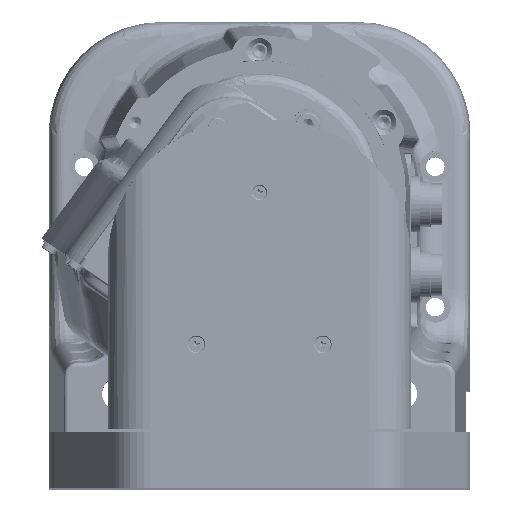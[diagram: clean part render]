
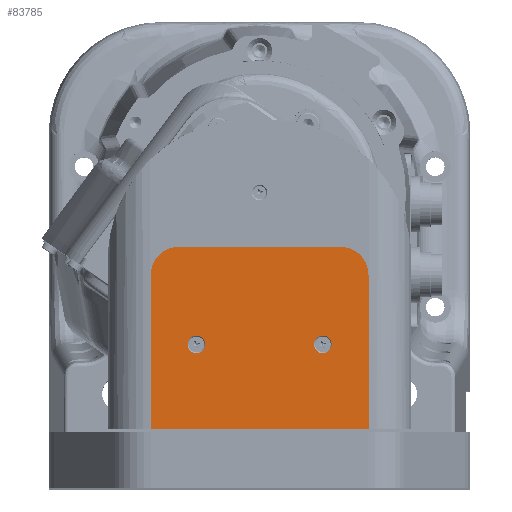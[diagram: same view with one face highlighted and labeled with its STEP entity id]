
A CAD part, top view. The second image highlights one B-rep face of the part: STEP entity #83785.
In plain terms, the highlighted planar face has unit normal (0, 0, 1) as drawn and (0, 0, -1) by its records, which use the part's own axes.
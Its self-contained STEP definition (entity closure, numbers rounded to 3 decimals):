
#8692 = EDGE_CURVE ( 'NONE', #77624, #78087, #108007, .T. ) ;
#8716 = EDGE_CURVE ( 'NONE', #78206, #78010, #108088, .T. ) ;
#8740 = EDGE_CURVE ( 'NONE', #77596, #78000, #108160, .T. ) ;
#8756 = EDGE_CURVE ( 'NONE', #78000, #78376, #108209, .T. ) ;
#8768 = EDGE_CURVE ( 'NONE', #78376, #77682, #108241, .T. ) ;
#14239 = AXIS2_PLACEMENT_3D ( 'NONE', #154875, #154878, #154880 ) ;
#47863 = EDGE_CURVE ( 'NONE', #77682, #78045, #114755, .T. ) ;
#47875 = EDGE_CURVE ( 'NONE', #78045, #78285, #114773, .T. ) ;
#47884 = EDGE_CURVE ( 'NONE', #78285, #77596, #114786, .T. ) ;
#47888 = EDGE_CURVE ( 'NONE', #78087, #77624, #114794, .T. ) ;
#47893 = EDGE_CURVE ( 'NONE', #78010, #78206, #114800, .T. ) ;
#57987 = CARTESIAN_POINT ( 'NONE',  ( -38.75, -84., -302.5 ) ) ;
#58016 = CARTESIAN_POINT ( 'NONE',  ( -19.35, -54., -302.5 ) ) ;
#58072 = CARTESIAN_POINT ( 'NONE',  ( 28.75, -19.3, -302.5 ) ) ;
#58392 = CARTESIAN_POINT ( 'NONE',  ( -38.75, -29.3, -302.5 ) ) ;
#58404 = CARTESIAN_POINT ( 'NONE',  ( 19.35, -54., -302.5 ) ) ;
#58474 = CARTESIAN_POINT ( 'NONE',  ( 38.75, -29.3, -302.5 ) ) ;
#58590 = CARTESIAN_POINT ( 'NONE',  ( -25.65, -54., -302.5 ) ) ;
#58961 = CARTESIAN_POINT ( 'NONE',  ( 25.65, -54., -302.5 ) ) ;
#65075 = ORIENTED_EDGE ( 'NONE', *, *, #47888, .F. ) ;
#65084 = ORIENTED_EDGE ( 'NONE', *, *, #8692, .F. ) ;
#65092 = ORIENTED_EDGE ( 'NONE', *, *, #47893, .F. ) ;
#65099 = ORIENTED_EDGE ( 'NONE', *, *, #8716, .F. ) ;
#65107 = ORIENTED_EDGE ( 'NONE', *, *, #8740, .T. ) ;
#65110 = ORIENTED_EDGE ( 'NONE', *, *, #8756, .T. ) ;
#65118 = ORIENTED_EDGE ( 'NONE', *, *, #8768, .T. ) ;
#65127 = ORIENTED_EDGE ( 'NONE', *, *, #47863, .T. ) ;
#77596 = VERTEX_POINT ( 'NONE', #57987 ) ;
#77624 = VERTEX_POINT ( 'NONE', #58016 ) ;
#77682 = VERTEX_POINT ( 'NONE', #58072 ) ;
#78000 = VERTEX_POINT ( 'NONE', #58392 ) ;
#78010 = VERTEX_POINT ( 'NONE', #58404 ) ;
#78045 = VERTEX_POINT ( 'NONE', #58474 ) ;
#78087 = VERTEX_POINT ( 'NONE', #58590 ) ;
#78206 = VERTEX_POINT ( 'NONE', #58961 ) ;
#78285 = VERTEX_POINT ( 'NONE', #159435 ) ;
#78376 = VERTEX_POINT ( 'NONE', #159688 ) ;
#79371 = AXIS2_PLACEMENT_3D ( 'NONE', #161356, #161357, #161358 ) ;
#79378 = AXIS2_PLACEMENT_3D ( 'NONE', #161391, #161392, #161393 ) ;
#79386 = AXIS2_PLACEMENT_3D ( 'NONE', #161443, #161444, #161445 ) ;
#83785 = ADVANCED_FACE ( 'NONE', ( #120809, #120810, #120811 ), #154873, .F. ) ;
#108007 = CIRCLE ( 'NONE', #79371, 3.15 ) ;
#108088 = CIRCLE ( 'NONE', #79378, 3.15 ) ;
#108160 = LINE ( 'NONE', #161424, #108163 ) ;
#108163 = VECTOR ( 'NONE', #161425, 1000. ) ;
#108209 = CIRCLE ( 'NONE', #79386, 10. ) ;
#108241 = LINE ( 'NONE', #161457, #108244 ) ;
#108244 = VECTOR ( 'NONE', #161458, 1000. ) ;
#114755 = CIRCLE ( 'NONE', #162995, 10. ) ;
#114773 = LINE ( 'NONE', #115547, #114774 ) ;
#114774 = VECTOR ( 'NONE', #115548, 1000. ) ;
#114786 = LINE ( 'NONE', #115556, #114787 ) ;
#114787 = VECTOR ( 'NONE', #115557, 1000. ) ;
#114794 = CIRCLE ( 'NONE', #162997, 3.15 ) ;
#114800 = CIRCLE ( 'NONE', #162999, 3.15 ) ;
#115534 = CARTESIAN_POINT ( 'NONE',  ( 28.75, -29.3, -302.5 ) ) ;
#115535 = DIRECTION ( 'NONE',  ( 0., 0., -1. ) ) ;
#115536 = DIRECTION ( 'NONE',  ( -1., 0., 0. ) ) ;
#115547 = CARTESIAN_POINT ( 'NONE',  ( 38.75, -84., -302.5 ) ) ;
#115548 = DIRECTION ( 'NONE',  ( 0., -1., 0. ) ) ;
#115556 = CARTESIAN_POINT ( 'NONE',  ( 38.75, -84., -302.5 ) ) ;
#115557 = DIRECTION ( 'NONE',  ( -1., 0., 0. ) ) ;
#115560 = CARTESIAN_POINT ( 'NONE',  ( -22.5, -54., -302.5 ) ) ;
#115561 = DIRECTION ( 'NONE',  ( 0., 0., -1. ) ) ;
#115562 = DIRECTION ( 'NONE',  ( -1., 0., 0. ) ) ;
#115566 = CARTESIAN_POINT ( 'NONE',  ( 22.5, -54., -302.5 ) ) ;
#115567 = DIRECTION ( 'NONE',  ( 0., 0., -1. ) ) ;
#115568 = DIRECTION ( 'NONE',  ( -1., 0., 0. ) ) ;
#120809 = FACE_BOUND ( 'NONE', #166340, .T. ) ;
#120810 = FACE_BOUND ( 'NONE', #166336, .T. ) ;
#120811 = FACE_OUTER_BOUND ( 'NONE', #166335, .T. ) ;
#139328 = ORIENTED_EDGE ( 'NONE', *, *, #47875, .T. ) ;
#139330 = ORIENTED_EDGE ( 'NONE', *, *, #47884, .T. ) ;
#154873 = PLANE ( 'NONE',  #14239 ) ;
#154875 = CARTESIAN_POINT ( 'NONE',  ( -28.75, -29.3, -302.5 ) ) ;
#154878 = DIRECTION ( 'NONE',  ( 0., 0., 1. ) ) ;
#154880 = DIRECTION ( 'NONE',  ( 1., 0., 0. ) ) ;
#159435 = CARTESIAN_POINT ( 'NONE',  ( 38.75, -84., -302.5 ) ) ;
#159688 = CARTESIAN_POINT ( 'NONE',  ( -28.75, -19.3, -302.5 ) ) ;
#161356 = CARTESIAN_POINT ( 'NONE',  ( -22.5, -54., -302.5 ) ) ;
#161357 = DIRECTION ( 'NONE',  ( 0., 0., -1. ) ) ;
#161358 = DIRECTION ( 'NONE',  ( -1., 0., 0. ) ) ;
#161391 = CARTESIAN_POINT ( 'NONE',  ( 22.5, -54., -302.5 ) ) ;
#161392 = DIRECTION ( 'NONE',  ( 0., 0., -1. ) ) ;
#161393 = DIRECTION ( 'NONE',  ( -1., 0., 0. ) ) ;
#161424 = CARTESIAN_POINT ( 'NONE',  ( -38.75, -84., -302.5 ) ) ;
#161425 = DIRECTION ( 'NONE',  ( 0., 1., 0. ) ) ;
#161443 = CARTESIAN_POINT ( 'NONE',  ( -28.75, -29.3, -302.5 ) ) ;
#161444 = DIRECTION ( 'NONE',  ( 0., 0., -1. ) ) ;
#161445 = DIRECTION ( 'NONE',  ( 1., 0., 0. ) ) ;
#161457 = CARTESIAN_POINT ( 'NONE',  ( 28.75, -19.3, -302.5 ) ) ;
#161458 = DIRECTION ( 'NONE',  ( 1., 0., 0. ) ) ;
#162995 = AXIS2_PLACEMENT_3D ( 'NONE', #115534, #115535, #115536 ) ;
#162997 = AXIS2_PLACEMENT_3D ( 'NONE', #115560, #115561, #115562 ) ;
#162999 = AXIS2_PLACEMENT_3D ( 'NONE', #115566, #115567, #115568 ) ;
#166335 = EDGE_LOOP ( 'NONE', ( #65107, #65110, #65118, #65127, #139328, #139330 ) ) ;
#166336 = EDGE_LOOP ( 'NONE', ( #65092, #65099 ) ) ;
#166340 = EDGE_LOOP ( 'NONE', ( #65075, #65084 ) ) ;
